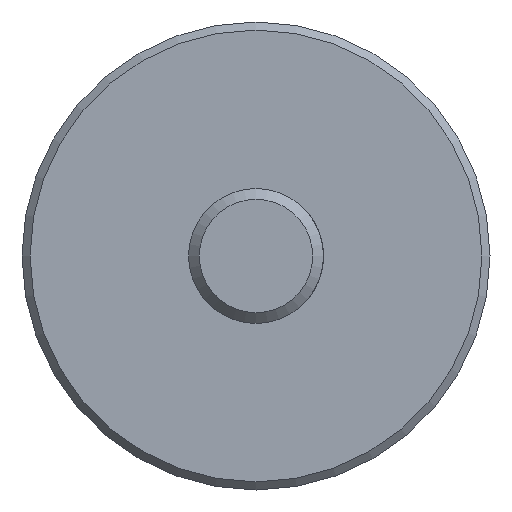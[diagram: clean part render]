
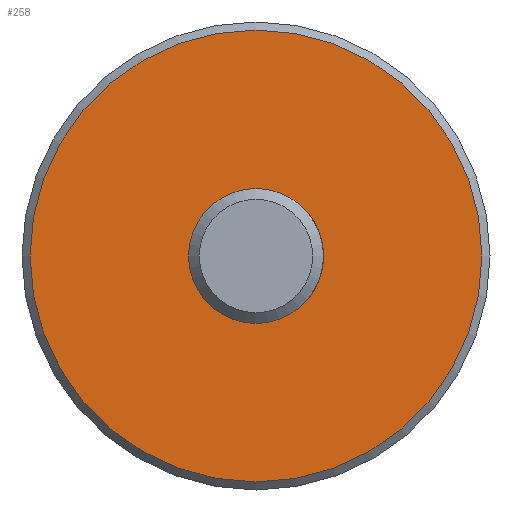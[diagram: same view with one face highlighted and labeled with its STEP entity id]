
A CAD part, front view. The second image highlights one B-rep face of the part: STEP entity #258.
In plain terms, the highlighted planar face has unit normal (0, -1, 0).
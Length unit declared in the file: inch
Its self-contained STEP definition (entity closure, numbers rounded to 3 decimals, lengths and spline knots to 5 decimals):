
#22 = FACE_BOUND ( 'NONE', #162, .T. ) ;
#42 = CARTESIAN_POINT ( 'NONE',  ( 0., 3.35, 1.255 ) ) ;
#110 = CIRCLE ( 'NONE', #231, 1.255 ) ;
#134 = ORIENTED_EDGE ( 'NONE', *, *, #336, .T. ) ;
#162 = EDGE_LOOP ( 'NONE', ( #134 ) ) ;
#172 = AXIS2_PLACEMENT_3D ( 'NONE', #369, #321, #196 ) ;
#196 = DIRECTION ( 'NONE',  ( 0., 0., 1. ) ) ;
#223 = FACE_OUTER_BOUND ( 'NONE', #353, .T. ) ;
#231 = AXIS2_PLACEMENT_3D ( 'NONE', #420, #328, #334 ) ;
#258 = ADVANCED_FACE ( 'NONE', ( #223, #22 ), #555, .F. ) ;
#321 = DIRECTION ( 'NONE',  ( 0., 1., 0. ) ) ;
#328 = DIRECTION ( 'NONE',  ( 0., 1., 0. ) ) ;
#334 = DIRECTION ( 'NONE',  ( 0., 0., 1. ) ) ;
#336 = EDGE_CURVE ( 'NONE', #438, #438, #415, .T. ) ;
#353 = EDGE_LOOP ( 'NONE', ( #371 ) ) ;
#367 = DIRECTION ( 'NONE',  ( 0., 1., 0. ) ) ;
#369 = CARTESIAN_POINT ( 'NONE',  ( 0.375, 3.35, 0. ) ) ;
#371 = ORIENTED_EDGE ( 'NONE', *, *, #487, .F. ) ;
#415 = CIRCLE ( 'NONE', #529, 0.375 ) ;
#417 = CARTESIAN_POINT ( 'NONE',  ( 0., 3.35, 0. ) ) ;
#420 = CARTESIAN_POINT ( 'NONE',  ( 0., 3.35, 0. ) ) ;
#438 = VERTEX_POINT ( 'NONE', #530 ) ;
#456 = DIRECTION ( 'NONE',  ( 0., 0., 1. ) ) ;
#480 = VERTEX_POINT ( 'NONE', #42 ) ;
#487 = EDGE_CURVE ( 'NONE', #480, #480, #110, .T. ) ;
#529 = AXIS2_PLACEMENT_3D ( 'NONE', #417, #367, #456 ) ;
#530 = CARTESIAN_POINT ( 'NONE',  ( 0., 3.35, 0.375 ) ) ;
#555 = PLANE ( 'NONE',  #172 ) ;
